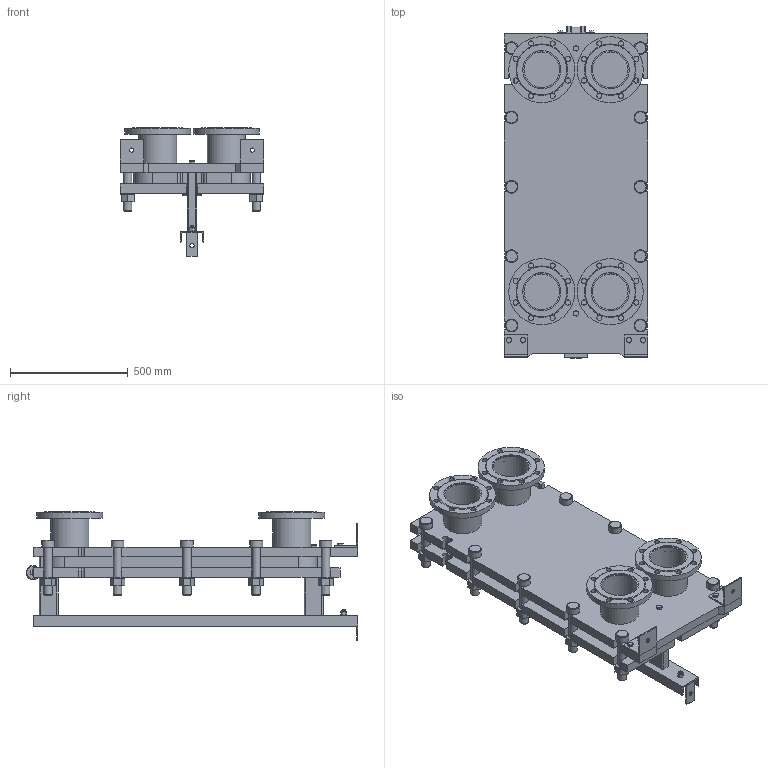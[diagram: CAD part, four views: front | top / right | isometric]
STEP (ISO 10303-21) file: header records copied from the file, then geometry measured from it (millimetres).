
FILE_DESCRIPTION(/* description */ (''),/* implementation_level */ '2;1');
FILE_NAME(/* name */ 'C:\Users\zhuro\Desktop\ENCO\TO\ЭН-041\ЭН-0,5-041-14-1.stp',/* time_stamp */ '2022-06-06T10:49:04+03:00',/* author */ ('zhuro'),/* organization */ (''),/* preprocessor_version */ 'ST-DEVELOPER v18.1',/* originating_system */ 'Autodesk Inventor 2022',/* authorisation */ '');
FILE_SCHEMA (('AUTOMOTIVE_DESIGN { 1 0 10303 214 3 1 1 }'));
Length unit declared in the file: millimetre
Products named in the file (1): ЭН-0,5-041-14-1
Bounding box: 610 x 1406.5 x 545 mm (x, y, z)
Volume: 101595432.4 mm3; surface area: 7128281.6 mm2
Topology: 52 solids, 52 shells, 711 faces, 1696 edges, 1094 vertices
Faces by surface type: plane 487, cylinder 177, cone 41, torus 6
Full cylindrical faces by diameter (mm): 8 x4, 10 x2, 16 x8, 18 x3, 22 x32, 36 x24, 50 x1, 54 x10, 60 x12, 151 x4, 161 x8, 280 x4
Entity records: 22667 total; most frequent: CARTESIAN_POINT 5230, DIRECTION 3644, ORIENTED_EDGE 3392, EDGE_CURVE 1696, AXIS2_PLACEMENT_3D 1272, LINE 1100, VECTOR 1100, VERTEX_POINT 1094
